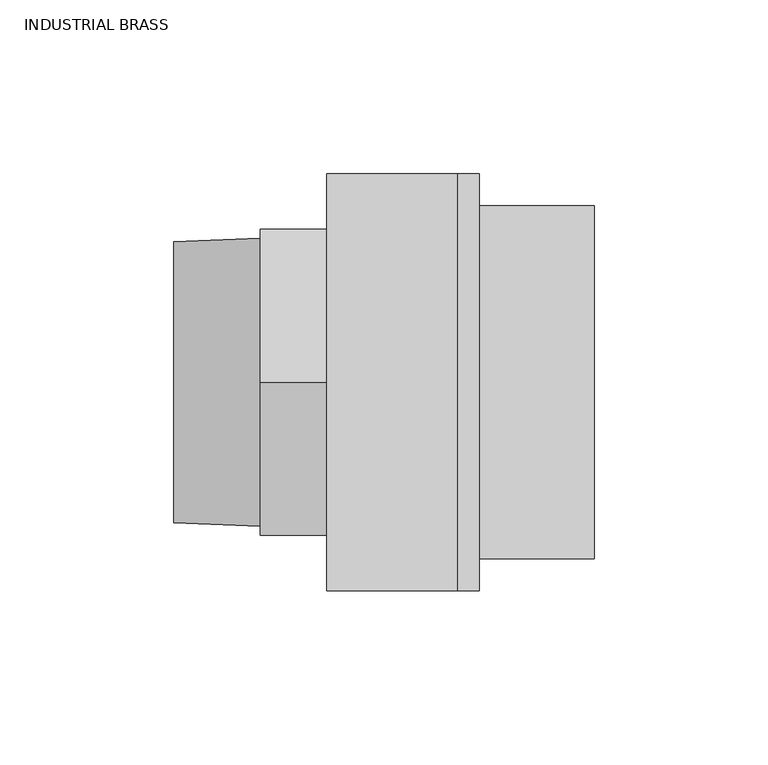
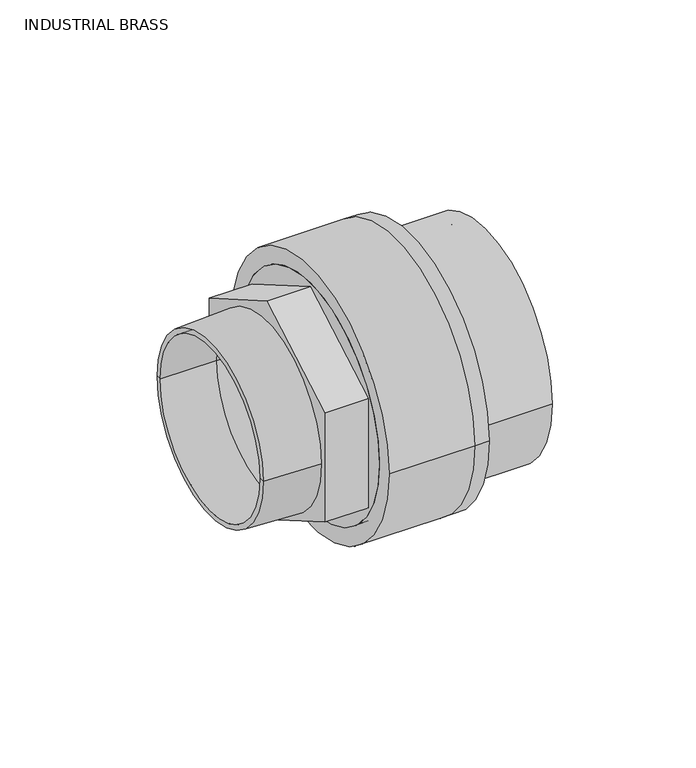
"""IFC4 building model written with IfcOpenShell, lengths in millimetres: valve geometry, Aquatherm - Transition Piece - M HEX : INDUSTRIAL BRASS."""

from ifc_helpers import new_model, si_unit, frame, origin, place, context, project, spatial, polyline, circle_curve, source, transform, mapped, element, save
from ifc_brep_helpers import plane_surface, cylinder_surface, revolved_surface, advanced_brep


def industrial_brass_8a138510(model_context):
    return source(origin(), model_context, "Body", "AdvancedBrep", [
        advanced_brep(
        [(37.592, -52.451, 0.0), (37.592, 52.451, 0.0), (37.592, -38.1, 0.0), (37.592, 38.1, 0.0), (0.0, -52.451, 0.0), (0.0, 52.451, 0.0), (0.0, 0.0, -50.7398511), (0.0, 43.942, -25.3699255), (0.0, 43.942, 25.3699255), (0.0, 0.0, 50.7398511), (0.0, -43.942, 25.3699255), (0.0, -43.942, -25.3699255), (0.0, -38.1, 0.0), (0.0, 38.1, 0.0), (-19.05, 0.0, -50.7398511), (-19.05, -43.942, -25.3699255), (-19.05, -43.942, 25.3699255), (-19.05, 0.0, 50.7398511), (-19.05, 43.942, 25.3699255), (-19.05, 43.942, -25.3699255), (-19.05, -41.3773091, 0.0), (-19.05, 41.3773091, 0.0), (-19.05, -38.1, 0.0), (-19.05, 38.1, 0.0), (-43.942, 38.1, 0.0), (-43.942, -38.1, 0.0), (-43.942, 40.3789409, 0.0), (-43.942, -40.3789409, 0.0)],
        [
            (0, 1, circle_curve(frame((37.592, 0.0, 0.0), z_axis=(1.0, 0.0, 0.0), x_axis=(0.0, 1.0, 0.0)), 52.451)),
            (1, 0, circle_curve(frame((37.592, 0.0, 0.0), z_axis=(1.0, 0.0, 0.0), x_axis=(0.0, 1.0, 0.0)), 52.451)),
            (2, 3, circle_curve(frame((37.592, 0.0, 0.0), z_axis=(-1.0, 0.0, 0.0), x_axis=(0.0, 1.0, 0.0)), 38.1)),
            (3, 2, circle_curve(frame((37.592, 0.0, 0.0), z_axis=(-1.0, 0.0, 0.0), x_axis=(0.0, 1.0, 0.0)), 38.1)),
            (4, 5, circle_curve(frame((0.0, 0.0, 0.0), z_axis=(-1.0, 0.0, 0.0), x_axis=(0.0, 1.0, 0.0)), 52.451)),
            (5, 4, circle_curve(frame((0.0, 0.0, 0.0), z_axis=(-1.0, 0.0, 0.0), x_axis=(0.0, 1.0, 0.0)), 52.451)),
            (6, 7),
            (7, 8),
            (8, 9),
            (9, 10),
            (10, 11),
            (11, 6),
            (0, 4),
            (5, 1),
            (2, 12),
            (12, 13, circle_curve(frame((0.0, 0.0, 0.0), z_axis=(-1.0, 0.0, 0.0), x_axis=(0.0, 1.0, 0.0)), 38.1)),
            (13, 3),
            (13, 12, circle_curve(frame((0.0, 0.0, 0.0), z_axis=(-1.0, 0.0, 0.0), x_axis=(0.0, 1.0, 0.0)), 38.1)),
            (14, 15),
            (15, 16),
            (16, 17),
            (17, 18),
            (18, 19),
            (19, 14),
            (20, 21, circle_curve(frame((-19.05, 0.0, 0.0), z_axis=(1.0, 0.0, 0.0), x_axis=(0.0, 1.0, 0.0)), 41.3773091)),
            (21, 20, circle_curve(frame((-19.05, 0.0, 0.0), z_axis=(1.0, 0.0, 0.0), x_axis=(0.0, 1.0, 0.0)), 41.3773091)),
            (19, 7),
            (6, 14),
            (18, 8),
            (17, 9),
            (16, 10),
            (15, 11),
            (12, 22),
            (22, 23, circle_curve(frame((-19.05, 0.0, 0.0), z_axis=(-1.0, 0.0, 0.0), x_axis=(0.0, 1.0, 0.0)), 38.1)),
            (23, 13),
            (23, 22, circle_curve(frame((-19.05, 0.0, 0.0), z_axis=(-1.0, 0.0, 0.0), x_axis=(0.0, 1.0, 0.0)), 38.1)),
            (23, 24),
            (24, 25, circle_curve(frame((-43.942, 0.0, 0.0), z_axis=(-1.0, 0.0, 0.0), x_axis=(0.0, 1.0, 0.0)), 38.1)),
            (25, 22),
            (25, 24, circle_curve(frame((-43.942, 0.0, 0.0), z_axis=(-1.0, 0.0, 0.0), x_axis=(0.0, 1.0, 0.0)), 38.1)),
            (24, 26),
            (26, 27, circle_curve(frame((-43.942, 0.0, 0.0), z_axis=(-1.0, 0.0, 0.0), x_axis=(0.0, 1.0, 0.0)), 40.3789409)),
            (27, 25),
            (27, 26, circle_curve(frame((-43.942, 0.0, 0.0), z_axis=(-1.0, 0.0, 0.0), x_axis=(0.0, 1.0, 0.0)), 40.3789409)),
            (26, 21),
            (20, 27),
        ],
        [
            plane_surface(frame((37.592, 52.451, 0.0), z_axis=(1.0, 0.0, 0.0), x_axis=(0.0, 0.0, 1.0))),
            plane_surface(frame((0.0, 52.451, 0.0), z_axis=(-1.0, 0.0, 0.0), x_axis=(0.0, 0.0, -1.0))),
            cylinder_surface(frame((0.0, 0.0, 0.0), z_axis=(1.0, 0.0, 0.0), x_axis=(0.0, 1.0, 0.0)), 52.451),
            revolved_surface(polyline([(0.0, 38.1, 0.0), (37.592, 38.1, 0.0)]), (17.447219, 0.0, 0.0), (-1.0, 0.0, 0.0)),
            plane_surface(frame((-19.05, 0.0, -50.7398511), z_axis=(-1.0, 0.0, 0.0), x_axis=(0.0, -0.8660254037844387, -0.4999999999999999))),
            plane_surface(frame((0.0, 0.0, -50.7398511), z_axis=(0.0, 0.4999999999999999, -0.8660254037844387), x_axis=(-1.0, 0.0, 0.0))),
            plane_surface(frame((0.0, 43.942, -25.3699255), z_axis=(0.0, 1.0, 0.0), x_axis=(-1.0, 0.0, 0.0))),
            plane_surface(frame((0.0, 43.942, 25.3699255), z_axis=(0.0, 0.499999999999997, 0.8660254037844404), x_axis=(-1.0, 0.0, 0.0))),
            plane_surface(frame((0.0, 0.0, 50.7398511), z_axis=(0.0, -0.5000000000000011, 0.866025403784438), x_axis=(-1.0, 0.0, 0.0))),
            plane_surface(frame((0.0, -43.942, 25.3699255), z_axis=(0.0, -1.0, 0.0), x_axis=(-1.0, 0.0, 0.0))),
            plane_surface(frame((0.0, -43.942, -25.3699255), z_axis=(0.0, -0.49999999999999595, -0.866025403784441), x_axis=(-1.0, 0.0, 0.0))),
            revolved_surface(polyline([(-19.05, 38.1, 0.0), (0.0, 38.1, 0.0)]), (0.0, 0.0, 0.0), (-1.0, 0.0, 0.0)),
            revolved_surface(polyline([(-43.942, 38.1, 0.0), (-19.049999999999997, 38.1, 0.0)]), (-78.8150688, 0.0, 0.0), (-1.0, 0.0, 0.0)),
            plane_surface(frame((-43.942, 0.0, 0.0), z_axis=(-1.0, 0.0, 0.0), x_axis=(0.0, 1.0, 0.0))),
            revolved_surface(polyline([(-19.05, 41.3773091, 0.0), (-43.942, 40.3789409, 0.0)]), (-78.8150688, 0.0, 0.0), (-1.0, 0.0, 0.0)),
        ],
        [
            (0, [[1, 2], [3, 4]]),
            (1, [[5, 6], [7, 8, 9, 10, 11, 12]]),
            (2, [[-1, 13, -6, 14]]),
            (2, [[-2, -14, -5, -13]]),
            (3, [[-3, 15, 16, 17]]),
            (3, [[-4, -17, 18, -15]]),
            (4, [[19, 20, 21, 22, 23, 24], [25, 26]]),
            (5, [[-24, 27, -7, 28]]),
            (6, [[-23, 29, -8, -27]]),
            (7, [[-22, 30, -9, -29]]),
            (8, [[-21, 31, -10, -30]]),
            (9, [[-20, 32, -11, -31]]),
            (10, [[-19, -28, -12, -32]]),
            (11, [[33, 34, 35, -16]]),
            (11, [[-33, -18, -35, 36]]),
            (12, [[37, 38, 39, -36]]),
            (12, [[-37, -34, -39, 40]]),
            (13, [[-38, 41, 42, 43]]),
            (13, [[-40, -43, 44, -41]]),
            (14, [[-42, 45, -25, 46]]),
            (14, [[-44, -46, -26, -45]]),
        ],
    ),
        advanced_brep(
        [(0.0, -59.944, 0.0), (0.0, 59.944, 0.0), (0.0, -52.451, 0.0), (0.0, 52.451, 0.0), (37.592, 59.944, 0.0), (37.592, -59.944, 0.0), (37.592, 52.451, 0.0), (37.592, -52.451, 0.0), (43.942, -59.944, 0.0), (43.942, 59.944, 0.0), (43.942, 50.8, 0.0), (43.942, -50.8, 0.0), (43.942, 44.958, 0.0), (43.942, -44.958, 0.0), (43.942, -38.1, 0.0), (43.942, 38.1, 0.0), (37.592, -38.1, 0.0), (37.592, 38.1, 0.0), (76.962, -50.8, 0.0), (76.962, 50.8, 0.0), (76.962, -44.958, 0.0), (76.962, 44.958, 0.0)],
        [
            (0, 1, circle_curve(frame((0.0, 0.0, 0.0), z_axis=(-1.0, 0.0, 0.0), x_axis=(0.0, 1.0, 0.0)), 59.944)),
            (1, 0, circle_curve(frame((0.0, 0.0, 0.0), z_axis=(-1.0, 0.0, 0.0), x_axis=(0.0, 1.0, 0.0)), 59.944)),
            (2, 3, circle_curve(frame((0.0, 0.0, 0.0), z_axis=(1.0, 0.0, 0.0), x_axis=(0.0, 1.0, 0.0)), 52.451)),
            (3, 2, circle_curve(frame((0.0, 0.0, 0.0), z_axis=(1.0, 0.0, 0.0), x_axis=(0.0, 1.0, 0.0)), 52.451)),
            (1, 4),
            (4, 5, circle_curve(frame((37.592, 0.0, 0.0), z_axis=(-1.0, 0.0, 0.0), x_axis=(0.0, 1.0, 0.0)), 59.944)),
            (5, 0),
            (5, 4, circle_curve(frame((37.592, 0.0, 0.0), z_axis=(-1.0, 0.0, 0.0), x_axis=(0.0, 1.0, 0.0)), 59.944)),
            (3, 6),
            (6, 7, circle_curve(frame((37.592, 0.0, 0.0), z_axis=(1.0, 0.0, 0.0), x_axis=(0.0, 1.0, 0.0)), 52.451)),
            (7, 2),
            (7, 6, circle_curve(frame((37.592, 0.0, 0.0), z_axis=(1.0, 0.0, 0.0), x_axis=(0.0, 1.0, 0.0)), 52.451)),
            (8, 9, circle_curve(frame((43.942, 0.0, 0.0), z_axis=(1.0, 0.0, 0.0), x_axis=(0.0, 1.0, 0.0)), 59.944)),
            (9, 8, circle_curve(frame((43.942, 0.0, 0.0), z_axis=(1.0, 0.0, 0.0), x_axis=(0.0, 1.0, 0.0)), 59.944)),
            (10, 11, circle_curve(frame((43.942, 0.0, 0.0), z_axis=(-1.0, 0.0, 0.0), x_axis=(0.0, 1.0, 0.0)), 50.8)),
            (11, 10, circle_curve(frame((43.942, 0.0, 0.0), z_axis=(-1.0, 0.0, 0.0), x_axis=(0.0, 1.0, 0.0)), 50.8)),
            (12, 13, circle_curve(frame((43.942, 0.0, 0.0), z_axis=(1.0, 0.0, 0.0), x_axis=(0.0, 1.0, 0.0)), 44.958)),
            (13, 12, circle_curve(frame((43.942, 0.0, 0.0), z_axis=(1.0, 0.0, 0.0), x_axis=(0.0, 1.0, 0.0)), 44.958)),
            (14, 15, circle_curve(frame((43.942, 0.0, 0.0), z_axis=(-1.0, 0.0, 0.0), x_axis=(0.0, 1.0, 0.0)), 38.1)),
            (15, 14, circle_curve(frame((43.942, 0.0, 0.0), z_axis=(-1.0, 0.0, 0.0), x_axis=(0.0, 1.0, 0.0)), 38.1)),
            (16, 17, circle_curve(frame((37.592, 0.0, 0.0), z_axis=(1.0, 0.0, 0.0), x_axis=(0.0, 1.0, 0.0)), 38.1)),
            (17, 16, circle_curve(frame((37.592, 0.0, 0.0), z_axis=(1.0, 0.0, 0.0), x_axis=(0.0, 1.0, 0.0)), 38.1)),
            (8, 5),
            (4, 9),
            (14, 16),
            (17, 15),
            (18, 19, circle_curve(frame((76.962, 0.0, 0.0), z_axis=(1.0, 0.0, 0.0), x_axis=(0.0, 1.0, 0.0)), 50.8)),
            (19, 18, circle_curve(frame((76.962, 0.0, 0.0), z_axis=(1.0, 0.0, 0.0), x_axis=(0.0, 1.0, 0.0)), 50.8)),
            (20, 21, circle_curve(frame((76.962, 0.0, 0.0), z_axis=(-1.0, 0.0, 0.0), x_axis=(0.0, 1.0, 0.0)), 44.958)),
            (21, 20, circle_curve(frame((76.962, 0.0, 0.0), z_axis=(-1.0, 0.0, 0.0), x_axis=(0.0, 1.0, 0.0)), 44.958)),
            (18, 11),
            (10, 19),
            (20, 13),
            (12, 21),
        ],
        [
            plane_surface(frame((0.0, 59.944, 0.0), z_axis=(-1.0, 0.0, 0.0), x_axis=(0.0, 0.0, -1.0))),
            cylinder_surface(frame((0.0, 0.0, 0.0), z_axis=(1.0, 0.0, 0.0), x_axis=(0.0, 1.0, 0.0)), 59.944),
            revolved_surface(polyline([(0.0, 52.451, 0.0), (37.592000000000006, 52.451, 0.0)]), (-38.1, 0.0, 0.0), (-1.0, 0.0, 0.0)),
            plane_surface(frame((43.942, 59.944, 0.0), z_axis=(1.0, 0.0, 0.0), x_axis=(0.0, 0.0, 1.0))),
            plane_surface(frame((37.592, 59.944, 0.0), z_axis=(-1.0, 0.0, 0.0), x_axis=(0.0, 0.0, -1.0))),
            cylinder_surface(frame((37.592, 0.0, 0.0), z_axis=(1.0, 0.0, 0.0), x_axis=(0.0, 1.0, 0.0)), 59.944),
            revolved_surface(polyline([(37.592, 38.1, 0.0), (43.94200000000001, 38.1, 0.0)]), (-19.05, 0.0, 0.0), (-1.0, 0.0, 0.0)),
            plane_surface(frame((76.962, 50.8, 0.0), z_axis=(1.0, 0.0, 0.0), x_axis=(0.0, 0.0, 1.0))),
            cylinder_surface(frame((43.942, 0.0, 0.0), z_axis=(1.0, 0.0, 0.0), x_axis=(0.0, 1.0, 0.0)), 50.8),
            revolved_surface(polyline([(43.942, 44.958, 0.0), (76.962, 44.958, 0.0)]), (0.0, 0.0, 0.0), (-1.0, 0.0, 0.0)),
        ],
        [
            (0, [[1, 2], [3, 4]]),
            (1, [[-2, 5, 6, 7]]),
            (1, [[-1, -7, 8, -5]]),
            (2, [[-4, 9, 10, 11]]),
            (2, [[-3, -11, 12, -9]]),
            (3, [[13, 14], [15, 16]]),
            (3, [[17, 18], [19, 20]]),
            (4, [[-10, -12], [21, 22]]),
            (5, [[-13, 23, -6, 24]]),
            (5, [[-14, -24, -8, -23]]),
            (6, [[-19, 25, -22, 26]]),
            (6, [[-20, -26, -21, -25]]),
            (7, [[27, 28], [29, 30]]),
            (8, [[-27, 31, -15, 32]]),
            (8, [[-28, -32, -16, -31]]),
            (9, [[-29, 33, -17, 34]]),
            (9, [[-30, -34, -18, -33]]),
        ],
    ),
    ])


if __name__ == "__main__":
    model = new_model("IFC4")
    model_context = context("Model", 3, world=origin())
    ifc_project = project(units=[si_unit("LENGTHUNIT", "METRE", prefix="MILLI")], contexts=[model_context])
    site = spatial("IfcSite", under=ifc_project)
    building = spatial("IfcBuilding", under=site)
    placement = place(None, origin())
    industrial_brass_shape = industrial_brass_8a138510(model_context)
    element("IfcValve", 1, ObjectType="Aquatherm - Transition Piece - M HEX : INDUSTRIAL BRASS", at=placement, inside=building, context=model_context, shape_type="MappedRepresentation", body=[
        mapped(industrial_brass_shape, transform((0.0, 0.0, 0.0), x_axis=(1.0, 0.0, 0.0), y_axis=(0.0, 1.0, 0.0), z_axis=(0.0, 0.0, 1.0))),
    ])
    save(model, "model.ifc")
